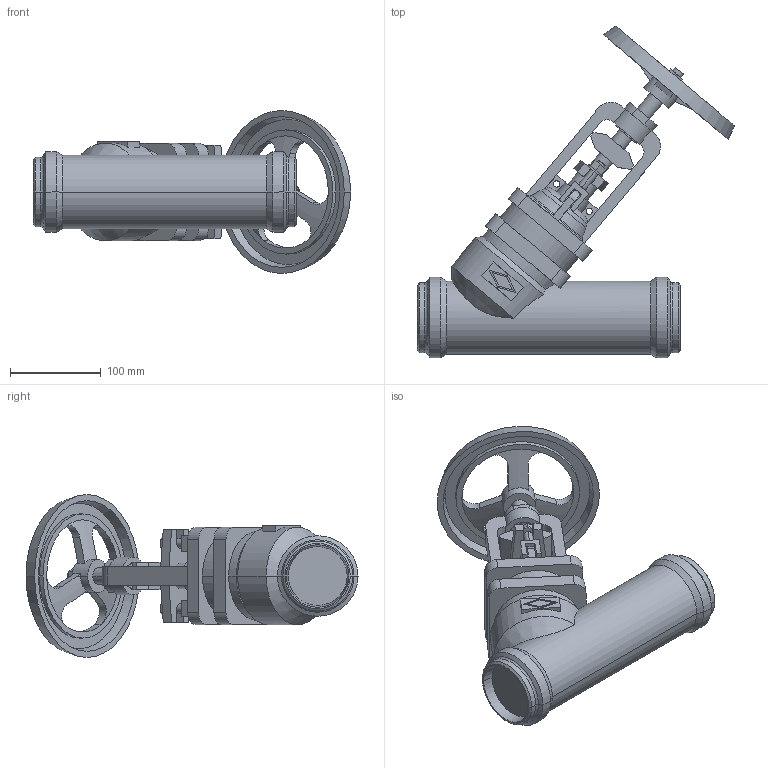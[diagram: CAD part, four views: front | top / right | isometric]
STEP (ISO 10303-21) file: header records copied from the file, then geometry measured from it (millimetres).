
FILE_DESCRIPTION(('OneSpaceDesigner STEP Export'),'2;1');
FILE_NAME('c000004363.stp','2010-05-11T 8:13:59',(''),(''),'OneSpace Designer STEP processor for AP214 (Solid Model)','OneSpace Modeling 15.50B 03-Nov-2007 (C) CoCreate Software GmbH','');
FILE_SCHEMA(('AUTOMOTIVE_DESIGN { 1 0 10303 214 1 1 1 1 }'));
Length unit declared in the file: millimetre
Products named in the file (1): 1
Bounding box: 350.17 x 366.56 x 180 mm (x, y, z)
Volume: 2878728.4 mm3; surface area: 256355.6 mm2
Topology: 1 solids, 1 shells, 291 faces, 763 edges, 493 vertices
Faces by surface type: plane 144, cylinder 85, cone 38, torus 24
Entity records: 11651 total; most frequent: CARTESIAN_POINT 2527, ORIENTED_EDGE 1526, DIRECTION 1239, EDGE_CURVE 763, VERTEX_POINT 493, AXIS2_PLACEMENT_3D 413, VECTOR 413, LINE 413
